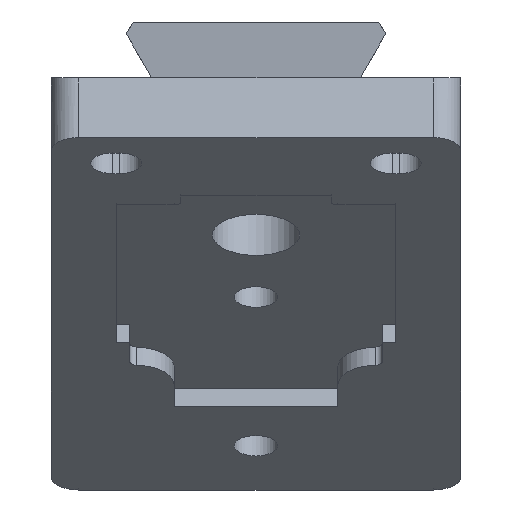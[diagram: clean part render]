
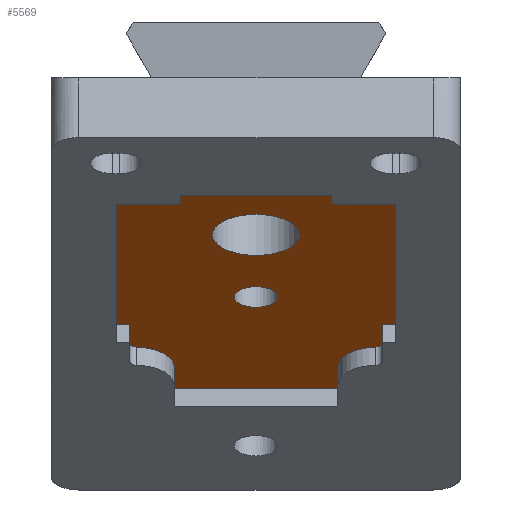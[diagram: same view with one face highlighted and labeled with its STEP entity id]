
A CAD part, left-side view. The second image highlights one B-rep face of the part: STEP entity #5569.
In plain terms, the highlighted planar face has unit normal (-0.469, 0, -0.883).
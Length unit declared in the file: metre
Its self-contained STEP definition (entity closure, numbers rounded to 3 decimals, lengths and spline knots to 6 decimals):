
#400=CIRCLE('',#5611,0.0016);
#402=CIRCLE('',#5614,0.0032);
#495=CIRCLE('',#5926,0.0005);
#496=CIRCLE('',#5927,0.003);
#497=CIRCLE('',#5928,0.003);
#498=CIRCLE('',#5929,0.0005);
#499=CIRCLE('',#5930,0.0005);
#500=CIRCLE('',#5931,0.0005);
#2067=ORIENTED_EDGE('',*,*,#2921,.T.);
#2068=ORIENTED_EDGE('',*,*,#2935,.T.);
#2069=ORIENTED_EDGE('',*,*,#2936,.T.);
#2070=ORIENTED_EDGE('',*,*,#2922,.T.);
#2071=ORIENTED_EDGE('',*,*,#2926,.T.);
#2072=ORIENTED_EDGE('',*,*,#2928,.F.);
#2073=ORIENTED_EDGE('',*,*,#2937,.T.);
#2074=ORIENTED_EDGE('',*,*,#2938,.T.);
#2075=ORIENTED_EDGE('',*,*,#2929,.F.);
#2076=ORIENTED_EDGE('',*,*,#2933,.F.);
#2077=ORIENTED_EDGE('',*,*,#2934,.T.);
#2078=ORIENTED_EDGE('',*,*,#2904,.F.);
#2079=ORIENTED_EDGE('',*,*,#2939,.T.);
#2080=ORIENTED_EDGE('',*,*,#2906,.T.);
#2081=ORIENTED_EDGE('',*,*,#2910,.T.);
#2082=ORIENTED_EDGE('',*,*,#2912,.F.);
#2083=ORIENTED_EDGE('',*,*,#2940,.T.);
#2084=ORIENTED_EDGE('',*,*,#2913,.F.);
#2085=ORIENTED_EDGE('',*,*,#2917,.F.);
#2086=ORIENTED_EDGE('',*,*,#2919,.F.);
#2087=ORIENTED_EDGE('',*,*,#2167,.F.);
#2088=ORIENTED_EDGE('',*,*,#2169,.F.);
#2167=EDGE_CURVE('',#2981,#2981,#400,.T.);
#2169=EDGE_CURVE('',#2983,#2983,#402,.T.);
#2904=EDGE_CURVE('',#3470,#3471,#3940,.T.);
#2906=EDGE_CURVE('',#3472,#3473,#3942,.T.);
#2910=EDGE_CURVE('',#3473,#3474,#3946,.T.);
#2912=EDGE_CURVE('',#3475,#3474,#3948,.T.);
#2913=EDGE_CURVE('',#3476,#3477,#3949,.T.);
#2917=EDGE_CURVE('',#3478,#3476,#3953,.T.);
#2919=EDGE_CURVE('',#3479,#3478,#3955,.T.);
#2921=EDGE_CURVE('',#3479,#3480,#3957,.T.);
#2922=EDGE_CURVE('',#3481,#3482,#3958,.T.);
#2926=EDGE_CURVE('',#3482,#3483,#3962,.T.);
#2928=EDGE_CURVE('',#3484,#3483,#3964,.T.);
#2929=EDGE_CURVE('',#3485,#3486,#3965,.T.);
#2933=EDGE_CURVE('',#3487,#3485,#3969,.T.);
#2934=EDGE_CURVE('',#3487,#3471,#3970,.T.);
#2935=EDGE_CURVE('',#3480,#3488,#495,.T.);
#2936=EDGE_CURVE('',#3488,#3481,#496,.F.);
#2937=EDGE_CURVE('',#3484,#3489,#497,.F.);
#2938=EDGE_CURVE('',#3489,#3486,#498,.T.);
#2939=EDGE_CURVE('',#3470,#3472,#499,.F.);
#2940=EDGE_CURVE('',#3475,#3477,#500,.F.);
#2981=VERTEX_POINT('',#7205);
#2983=VERTEX_POINT('',#7210);
#3470=VERTEX_POINT('',#9738);
#3471=VERTEX_POINT('',#9740);
#3472=VERTEX_POINT('',#9744);
#3473=VERTEX_POINT('',#9745);
#3474=VERTEX_POINT('',#9750);
#3475=VERTEX_POINT('',#9754);
#3476=VERTEX_POINT('',#9758);
#3477=VERTEX_POINT('',#9759);
#3478=VERTEX_POINT('',#9764);
#3479=VERTEX_POINT('',#9768);
#3480=VERTEX_POINT('',#9772);
#3481=VERTEX_POINT('',#9776);
#3482=VERTEX_POINT('',#9777);
#3483=VERTEX_POINT('',#9782);
#3484=VERTEX_POINT('',#9786);
#3485=VERTEX_POINT('',#9790);
#3486=VERTEX_POINT('',#9791);
#3487=VERTEX_POINT('',#9796);
#3488=VERTEX_POINT('',#9802);
#3489=VERTEX_POINT('',#9805);
#3940=LINE('',#9739,#4423);
#3942=LINE('',#9743,#4425);
#3946=LINE('',#9751,#4429);
#3948=LINE('',#9755,#4431);
#3949=LINE('',#9757,#4432);
#3953=LINE('',#9765,#4436);
#3955=LINE('',#9769,#4438);
#3957=LINE('',#9773,#4440);
#3958=LINE('',#9775,#4441);
#3962=LINE('',#9783,#4445);
#3964=LINE('',#9787,#4447);
#3965=LINE('',#9789,#4448);
#3969=LINE('',#9797,#4452);
#3970=LINE('',#9799,#4453);
#4423=VECTOR('',#7032,1.);
#4425=VECTOR('',#7036,1.);
#4429=VECTOR('',#7042,1.);
#4431=VECTOR('',#7046,1.);
#4432=VECTOR('',#7049,1.);
#4436=VECTOR('',#7055,1.);
#4438=VECTOR('',#7059,1.);
#4440=VECTOR('',#7063,1.);
#4441=VECTOR('',#7066,1.);
#4445=VECTOR('',#7072,1.);
#4447=VECTOR('',#7076,1.);
#4448=VECTOR('',#7079,1.);
#4452=VECTOR('',#7085,1.);
#4453=VECTOR('',#7088,1.);
#4784=EDGE_LOOP('',(#2067,#2068,#2069,#2070,#2071,#2072,#2073,#2074,#2075,
#2076,#2077,#2078,#2079,#2080,#2081,#2082,#2083,#2084,#2085,#2086));
#4785=EDGE_LOOP('',(#2087));
#4786=EDGE_LOOP('',(#2088));
#5125=FACE_BOUND('',#4784,.T.);
#5126=FACE_BOUND('',#4785,.T.);
#5127=FACE_BOUND('',#4786,.T.);
#5279=PLANE('',#5925);
#5569=ADVANCED_FACE('',(#5125,#5126,#5127),#5279,.T.);
#5611=AXIS2_PLACEMENT_3D('',#7204,#6002,#6003);
#5614=AXIS2_PLACEMENT_3D('',#7209,#6008,#6009);
#5925=AXIS2_PLACEMENT_3D('',#9800,#7089,#7090);
#5926=AXIS2_PLACEMENT_3D('',#9801,#7091,#7092);
#5927=AXIS2_PLACEMENT_3D('',#9803,#7093,#7094);
#5928=AXIS2_PLACEMENT_3D('',#9804,#7095,#7096);
#5929=AXIS2_PLACEMENT_3D('',#9806,#7097,#7098);
#5930=AXIS2_PLACEMENT_3D('',#9807,#7099,#7100);
#5931=AXIS2_PLACEMENT_3D('',#9808,#7101,#7102);
#6002=DIRECTION('',(-0.469,0.,-0.883));
#6003=DIRECTION('',(-0.883,0.,0.469));
#6008=DIRECTION('',(-0.469,0.,-0.883));
#6009=DIRECTION('',(-0.883,0.,0.469));
#7032=DIRECTION('',(0.,-1.,0.));
#7036=DIRECTION('',(-0.883,0.,0.469));
#7042=DIRECTION('',(0.,1.,0.));
#7046=DIRECTION('',(-0.883,0.,0.469));
#7049=DIRECTION('',(0.,-1.,0.));
#7055=DIRECTION('',(-0.883,0.,0.469));
#7059=DIRECTION('',(0.,1.,0.));
#7063=DIRECTION('',(0.883,0.,-0.469));
#7066=DIRECTION('',(0.883,0.,-0.469));
#7072=DIRECTION('',(0.,-1.,0.));
#7076=DIRECTION('',(0.883,0.,-0.469));
#7079=DIRECTION('',(0.883,0.,-0.469));
#7085=DIRECTION('',(0.,1.,0.));
#7088=DIRECTION('',(-0.883,0.,0.469));
#7089=DIRECTION('',(-0.469,0.,-0.883));
#7090=DIRECTION('',(0.883,0.,-0.469));
#7091=DIRECTION('',(-0.469,0.,-0.883));
#7092=DIRECTION('',(-0.883,0.,0.469));
#7093=DIRECTION('',(-0.469,0.,-0.883));
#7094=DIRECTION('',(-0.883,0.,0.469));
#7095=DIRECTION('',(-0.469,0.,-0.883));
#7096=DIRECTION('',(-0.883,0.,0.469));
#7097=DIRECTION('',(-0.469,0.,-0.883));
#7098=DIRECTION('',(-0.883,0.,0.469));
#7099=DIRECTION('',(-0.469,0.,-0.883));
#7100=DIRECTION('',(-0.883,0.,0.469));
#7101=DIRECTION('',(-0.469,0.,-0.883));
#7102=DIRECTION('',(-0.883,0.,0.469));
#7204=CARTESIAN_POINT('',(0.022835,0.,-0.016056));
#7205=CARTESIAN_POINT('',(0.021422,0.,-0.015305));
#7209=CARTESIAN_POINT('',(0.014271,0.,-0.011502));
#7210=CARTESIAN_POINT('',(0.011445,0.,-0.01));
#9738=CARTESIAN_POINT('',(0.007648,-0.006,-0.007981));
#9739=CARTESIAN_POINT('',(0.007648,-0.007875,-0.007981));
#9740=CARTESIAN_POINT('',(0.007648,-0.01025,-0.007981));
#9743=CARTESIAN_POINT('',(0.00703,-0.0055,-0.007652));
#9744=CARTESIAN_POINT('',(0.007207,-0.0055,-0.007746));
#9745=CARTESIAN_POINT('',(0.006412,-0.0055,-0.007324));
#9750=CARTESIAN_POINT('',(0.006412,0.0055,-0.007324));
#9751=CARTESIAN_POINT('',(0.006412,0.,-0.007324));
#9754=CARTESIAN_POINT('',(0.007207,0.0055,-0.007746));
#9755=CARTESIAN_POINT('',(0.00703,0.0055,-0.007652));
#9757=CARTESIAN_POINT('',(0.007648,0.007875,-0.007981));
#9758=CARTESIAN_POINT('',(0.007648,0.01025,-0.007981));
#9759=CARTESIAN_POINT('',(0.007648,0.006,-0.007981));
#9764=CARTESIAN_POINT('',(0.026632,0.01025,-0.018075));
#9765=CARTESIAN_POINT('',(0.01714,0.01025,-0.013028));
#9768=CARTESIAN_POINT('',(0.026632,0.00925,-0.018075));
#9769=CARTESIAN_POINT('',(0.026632,0.00975,-0.018075));
#9772=CARTESIAN_POINT('',(0.029289,0.00925,-0.019487));
#9773=CARTESIAN_POINT('',(0.028177,0.00925,-0.018896));
#9775=CARTESIAN_POINT('',(0.032592,0.006,-0.021243));
#9776=CARTESIAN_POINT('',(0.032371,0.006,-0.021126));
#9777=CARTESIAN_POINT('',(0.035461,0.006,-0.022769));
#9782=CARTESIAN_POINT('',(0.035461,-0.006,-0.022769));
#9783=CARTESIAN_POINT('',(0.035461,0.,-0.022769));
#9786=CARTESIAN_POINT('',(0.032371,-0.006,-0.021126));
#9787=CARTESIAN_POINT('',(0.032592,-0.006,-0.021243));
#9789=CARTESIAN_POINT('',(0.028177,-0.00925,-0.018896));
#9790=CARTESIAN_POINT('',(0.026632,-0.00925,-0.018075));
#9791=CARTESIAN_POINT('',(0.029289,-0.00925,-0.019487));
#9796=CARTESIAN_POINT('',(0.026632,-0.01025,-0.018075));
#9797=CARTESIAN_POINT('',(0.026632,-0.00975,-0.018075));
#9799=CARTESIAN_POINT('',(0.020451,-0.01025,-0.014788));
#9800=CARTESIAN_POINT('',(0.022659,0.,-0.015962));
#9801=CARTESIAN_POINT('',(0.029289,0.00875,-0.019487));
#9802=CARTESIAN_POINT('',(0.029729,0.008786,-0.019721));
#9803=CARTESIAN_POINT('',(0.032371,0.009,-0.021126));
#9804=CARTESIAN_POINT('',(0.032371,-0.009,-0.021126));
#9805=CARTESIAN_POINT('',(0.029729,-0.008786,-0.019721));
#9806=CARTESIAN_POINT('',(0.029289,-0.00875,-0.019487));
#9807=CARTESIAN_POINT('',(0.007207,-0.006,-0.007746));
#9808=CARTESIAN_POINT('',(0.007207,0.006,-0.007746));
